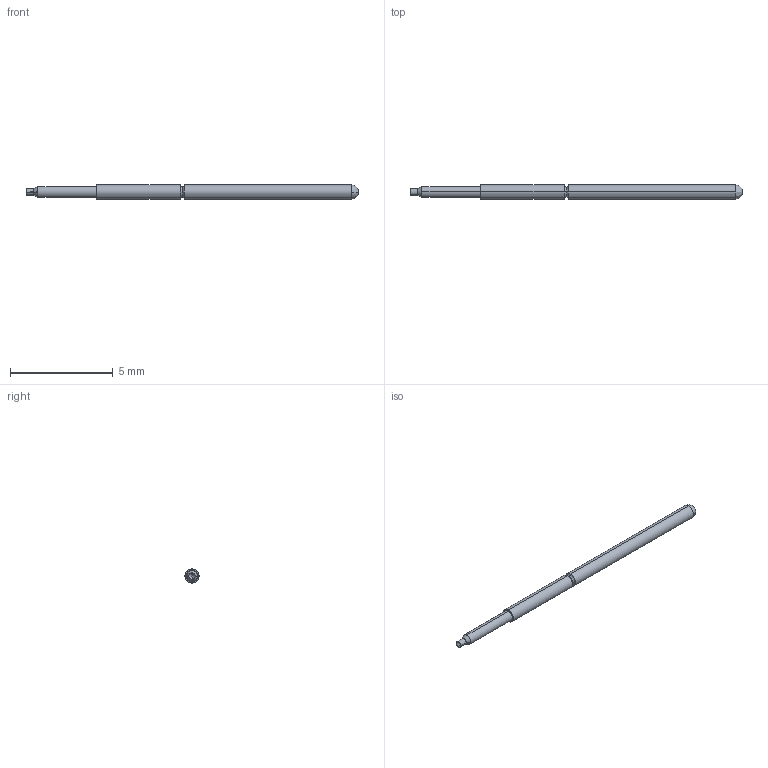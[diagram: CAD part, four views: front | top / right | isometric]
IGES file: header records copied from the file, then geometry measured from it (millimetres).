
Start section: SolidWorks IGES file using analytic representation for surfaces
Global section: file name: F:\OneDrive\Desktop\Coda\24.8\PA1 series, two locations RTP\Completed\PA1A-012.IGS; native system: SolidWorks 2021; preprocessor: SolidWorks 2021; author: Georg; date: 210824.144417; units: inch
Bounding box: 16.13 x 0.69 x 0.69 mm (x, y, z)
Surface area: 33.2 mm2 (no closed solid volume)
Topology: 0 solids, 0 shells, 20 faces, 132 edges, 130 vertices
Faces by surface type: revolution 12, bspline 8
